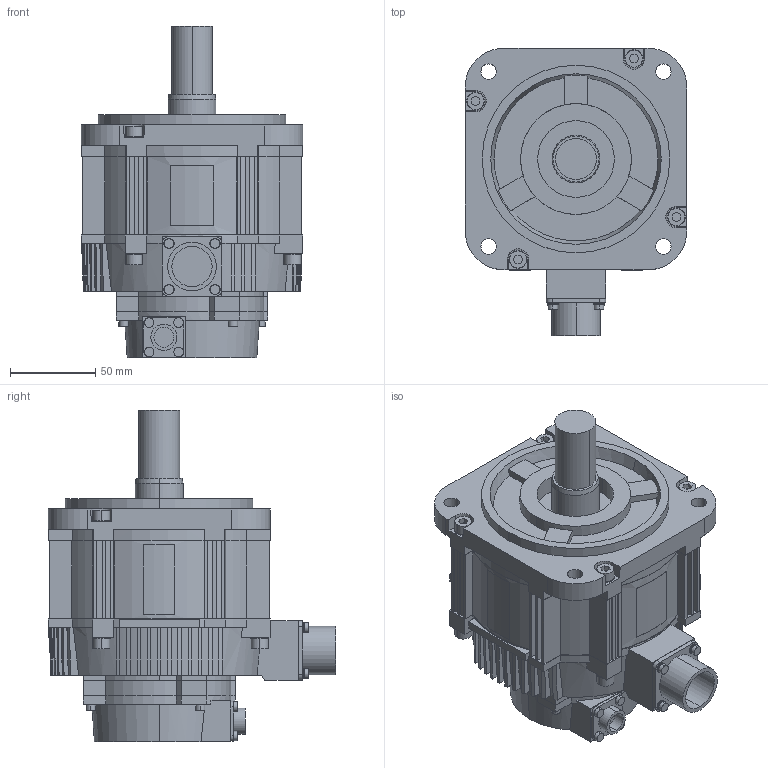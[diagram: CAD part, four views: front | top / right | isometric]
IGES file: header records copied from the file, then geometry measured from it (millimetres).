
Start section:  PTC IGES file: sgm7g_09_a21.igs
Global section: file name: sgm7g_09_a21.igs; native system: Pro/ENGINEER by Parametric Technology Corporation; preprocessor: 2011490; author: y-kamei; organization: Unknown; date: 20131120.153845; units: millimetre
Bounding box: 130 x 168.49 x 194.6 mm (x, y, z)
Surface area: 133356 mm2 (no closed solid volume)
Topology: 0 solids, 0 shells, 801 faces, 4220 edges, 4220 vertices
Faces by surface type: bspline 521, revolution 280
